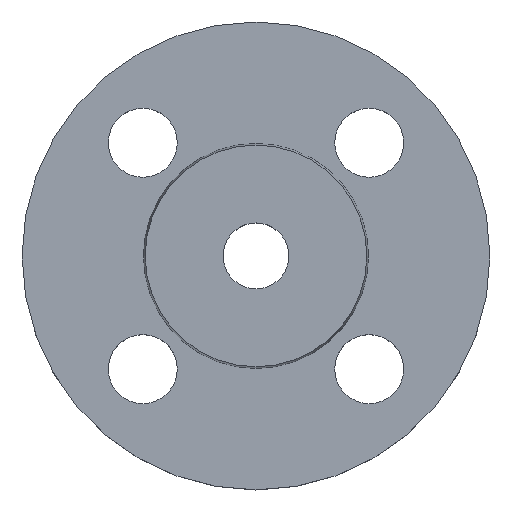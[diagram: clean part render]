
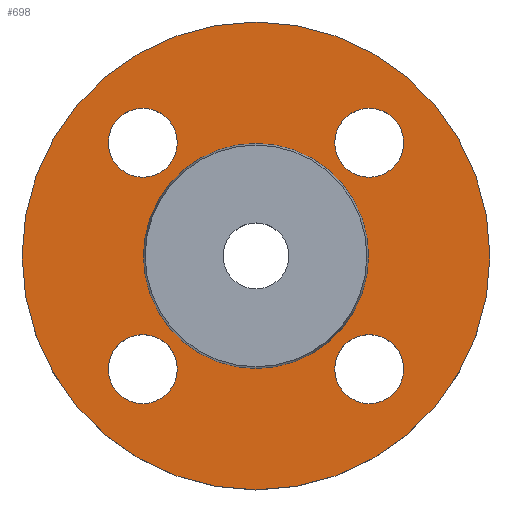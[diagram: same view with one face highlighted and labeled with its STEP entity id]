
A CAD part, top view. The second image highlights one B-rep face of the part: STEP entity #698.
In plain terms, the highlighted planar face has unit normal (0, 0, 1).
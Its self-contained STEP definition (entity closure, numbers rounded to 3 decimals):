
#4 = AXIS2_PLACEMENT_3D ( 'NONE', #675, #676, #677 ) ;
#9 = AXIS2_PLACEMENT_3D ( 'NONE', #93, #92, #90 ) ;
#21 = CARTESIAN_POINT ( 'NONE',  ( 0., 0., -2. ) ) ;
#32 = CIRCLE ( 'NONE', #36, 7. ) ;
#36 = AXIS2_PLACEMENT_3D ( 'NONE', #717, #718, #719 ) ;
#38 = CIRCLE ( 'NONE', #4, 7. ) ;
#43 = AXIS2_PLACEMENT_3D ( 'NONE', #397, #398, #399 ) ;
#44 = CIRCLE ( 'NONE', #43, 7. ) ;
#52 = CIRCLE ( 'NONE', #66, 7. ) ;
#66 = AXIS2_PLACEMENT_3D ( 'NONE', #270, #275, #131 ) ;
#74 = CIRCLE ( 'NONE', #670, 7. ) ;
#79 = CIRCLE ( 'NONE', #245, 22.853 ) ;
#88 = CIRCLE ( 'NONE', #101, 7. ) ;
#90 = DIRECTION ( 'NONE',  ( 1., 0., 0. ) ) ;
#92 = DIRECTION ( 'NONE',  ( 0., 0., 1. ) ) ;
#93 = CARTESIAN_POINT ( 'NONE',  ( 22.853, 0., -2. ) ) ;
#94 = PLANE ( 'NONE',  #9 ) ;
#95 = FACE_OUTER_BOUND ( 'NONE', #415, .T. ) ;
#96 = FACE_BOUND ( 'NONE', #555, .T. ) ;
#97 = FACE_BOUND ( 'NONE', #562, .T. ) ;
#98 = FACE_BOUND ( 'NONE', #269, .T. ) ;
#100 = FACE_BOUND ( 'NONE', #481, .T. ) ;
#101 = AXIS2_PLACEMENT_3D ( 'NONE', #285, #286, #287 ) ;
#103 = FACE_BOUND ( 'NONE', #412, .T. ) ;
#105 = DIRECTION ( 'NONE',  ( -1., 0., 0. ) ) ;
#107 = DIRECTION ( 'NONE',  ( 0., 0., -1. ) ) ;
#109 = CARTESIAN_POINT ( 'NONE',  ( 0., 0., -2. ) ) ;
#124 = CIRCLE ( 'NONE', #557, 47.5 ) ;
#129 = EDGE_CURVE ( 'NONE', #558, #259, #38, .T. ) ;
#131 = DIRECTION ( 'NONE',  ( 1., 0., 0. ) ) ;
#136 = CARTESIAN_POINT ( 'NONE',  ( -15.981, -22.981, -2. ) ) ;
#138 = CARTESIAN_POINT ( 'NONE',  ( 29.981, -22.981, -2. ) ) ;
#160 = DIRECTION ( 'NONE',  ( 0., 0., -1. ) ) ;
#167 = AXIS2_PLACEMENT_3D ( 'NONE', #342, #343, #344 ) ;
#168 = CARTESIAN_POINT ( 'NONE',  ( 29.981, 22.981, -2. ) ) ;
#171 = CARTESIAN_POINT ( 'NONE',  ( -22.853, 0., -2. ) ) ;
#172 = CARTESIAN_POINT ( 'NONE',  ( 0., 0., -2. ) ) ;
#174 = CARTESIAN_POINT ( 'NONE',  ( 22.853, 0., -2. ) ) ;
#184 = CARTESIAN_POINT ( 'NONE',  ( -47.5, 0., -2. ) ) ;
#193 = CIRCLE ( 'NONE', #394, 22.853 ) ;
#194 = DIRECTION ( 'NONE',  ( -1., 0., 0. ) ) ;
#207 = EDGE_CURVE ( 'NONE', #259, #558, #32, .T. ) ;
#216 = DIRECTION ( 'NONE',  ( -1., 0., 0. ) ) ;
#227 = AXIS2_PLACEMENT_3D ( 'NONE', #244, #271, #194 ) ;
#232 = EDGE_CURVE ( 'NONE', #252, #568, #88, .T. ) ;
#235 = EDGE_CURVE ( 'NONE', #257, #584, #74, .T. ) ;
#244 = CARTESIAN_POINT ( 'NONE',  ( 0., 0., -2. ) ) ;
#245 = AXIS2_PLACEMENT_3D ( 'NONE', #21, #262, #216 ) ;
#252 = VERTEX_POINT ( 'NONE', #300 ) ;
#257 = VERTEX_POINT ( 'NONE', #309 ) ;
#259 = VERTEX_POINT ( 'NONE', #311 ) ;
#262 = DIRECTION ( 'NONE',  ( 0., 0., -1. ) ) ;
#269 = EDGE_LOOP ( 'NONE', ( #483, #484 ) ) ;
#270 = CARTESIAN_POINT ( 'NONE',  ( -22.981, 22.981, -2. ) ) ;
#271 = DIRECTION ( 'NONE',  ( 0., 0., -1. ) ) ;
#275 = DIRECTION ( 'NONE',  ( 0., 0., -1. ) ) ;
#276 = DIRECTION ( 'NONE',  ( -1., 0., 0. ) ) ;
#284 = CIRCLE ( 'NONE', #167, 7. ) ;
#285 = CARTESIAN_POINT ( 'NONE',  ( -22.981, 22.981, -2. ) ) ;
#286 = DIRECTION ( 'NONE',  ( 0., 0., -1. ) ) ;
#287 = DIRECTION ( 'NONE',  ( 1., 0., 0. ) ) ;
#289 = CARTESIAN_POINT ( 'NONE',  ( -22.981, -22.981, -2. ) ) ;
#290 = DIRECTION ( 'NONE',  ( 0., 0., -1. ) ) ;
#291 = DIRECTION ( 'NONE',  ( 1., 0., 0. ) ) ;
#300 = CARTESIAN_POINT ( 'NONE',  ( -15.981, 22.981, -2. ) ) ;
#309 = CARTESIAN_POINT ( 'NONE',  ( -29.981, -22.981, -2. ) ) ;
#311 = CARTESIAN_POINT ( 'NONE',  ( 15.981, 22.981, -2. ) ) ;
#312 = CIRCLE ( 'NONE', #227, 47.5 ) ;
#341 = EDGE_CURVE ( 'NONE', #584, #257, #284, .T. ) ;
#342 = CARTESIAN_POINT ( 'NONE',  ( -22.981, -22.981, -2. ) ) ;
#343 = DIRECTION ( 'NONE',  ( 0., 0., -1. ) ) ;
#344 = DIRECTION ( 'NONE',  ( 1., 0., 0. ) ) ;
#361 = CARTESIAN_POINT ( 'NONE',  ( 22.981, -22.981, -2. ) ) ;
#362 = DIRECTION ( 'NONE',  ( 0., 0., -1. ) ) ;
#363 = DIRECTION ( 'NONE',  ( 1., 0., 0. ) ) ;
#368 = CARTESIAN_POINT ( 'NONE',  ( 15.981, -22.981, -2. ) ) ;
#394 = AXIS2_PLACEMENT_3D ( 'NONE', #109, #107, #105 ) ;
#396 = CARTESIAN_POINT ( 'NONE',  ( 47.5, 0., -2. ) ) ;
#397 = CARTESIAN_POINT ( 'NONE',  ( 22.981, -22.981, -2. ) ) ;
#398 = DIRECTION ( 'NONE',  ( 0., 0., -1. ) ) ;
#399 = DIRECTION ( 'NONE',  ( 1., 0., 0. ) ) ;
#406 = EDGE_CURVE ( 'NONE', #414, #581, #623, .T. ) ;
#408 = CARTESIAN_POINT ( 'NONE',  ( -29.981, 22.981, -2. ) ) ;
#412 = EDGE_LOOP ( 'NONE', ( #473, #474 ) ) ;
#414 = VERTEX_POINT ( 'NONE', #368 ) ;
#415 = EDGE_LOOP ( 'NONE', ( #491, #492 ) ) ;
#473 = ORIENTED_EDGE ( 'NONE', *, *, #482, .T. ) ;
#474 = ORIENTED_EDGE ( 'NONE', *, *, #406, .T. ) ;
#477 = VERTEX_POINT ( 'NONE', #396 ) ;
#479 = ORIENTED_EDGE ( 'NONE', *, *, #341, .T. ) ;
#480 = ORIENTED_EDGE ( 'NONE', *, *, #235, .T. ) ;
#481 = EDGE_LOOP ( 'NONE', ( #479, #480 ) ) ;
#482 = EDGE_CURVE ( 'NONE', #581, #414, #44, .T. ) ;
#483 = ORIENTED_EDGE ( 'NONE', *, *, #232, .T. ) ;
#484 = ORIENTED_EDGE ( 'NONE', *, *, #494, .T. ) ;
#485 = ORIENTED_EDGE ( 'NONE', *, *, #129, .T. ) ;
#486 = ORIENTED_EDGE ( 'NONE', *, *, #207, .T. ) ;
#487 = ORIENTED_EDGE ( 'NONE', *, *, #597, .T. ) ;
#488 = ORIENTED_EDGE ( 'NONE', *, *, #690, .T. ) ;
#491 = ORIENTED_EDGE ( 'NONE', *, *, #591, .F. ) ;
#492 = ORIENTED_EDGE ( 'NONE', *, *, #614, .F. ) ;
#494 = EDGE_CURVE ( 'NONE', #568, #252, #52, .T. ) ;
#530 = VERTEX_POINT ( 'NONE', #184 ) ;
#555 = EDGE_LOOP ( 'NONE', ( #487, #488 ) ) ;
#557 = AXIS2_PLACEMENT_3D ( 'NONE', #172, #160, #276 ) ;
#558 = VERTEX_POINT ( 'NONE', #168 ) ;
#562 = EDGE_LOOP ( 'NONE', ( #485, #486 ) ) ;
#568 = VERTEX_POINT ( 'NONE', #408 ) ;
#580 = VERTEX_POINT ( 'NONE', #171 ) ;
#581 = VERTEX_POINT ( 'NONE', #138 ) ;
#584 = VERTEX_POINT ( 'NONE', #136 ) ;
#590 = VERTEX_POINT ( 'NONE', #174 ) ;
#591 = EDGE_CURVE ( 'NONE', #477, #530, #124, .T. ) ;
#597 = EDGE_CURVE ( 'NONE', #580, #590, #79, .T. ) ;
#614 = EDGE_CURVE ( 'NONE', #530, #477, #312, .T. ) ;
#623 = CIRCLE ( 'NONE', #658, 7. ) ;
#658 = AXIS2_PLACEMENT_3D ( 'NONE', #361, #362, #363 ) ;
#670 = AXIS2_PLACEMENT_3D ( 'NONE', #289, #290, #291 ) ;
#675 = CARTESIAN_POINT ( 'NONE',  ( 22.981, 22.981, -2. ) ) ;
#676 = DIRECTION ( 'NONE',  ( 0., 0., -1. ) ) ;
#677 = DIRECTION ( 'NONE',  ( 1., 0., 0. ) ) ;
#690 = EDGE_CURVE ( 'NONE', #590, #580, #193, .T. ) ;
#698 = ADVANCED_FACE ( 'NONE', ( #103, #100, #98, #97, #96, #95 ), #94, .T. ) ;
#717 = CARTESIAN_POINT ( 'NONE',  ( 22.981, 22.981, -2. ) ) ;
#718 = DIRECTION ( 'NONE',  ( 0., 0., -1. ) ) ;
#719 = DIRECTION ( 'NONE',  ( 1., 0., 0. ) ) ;
